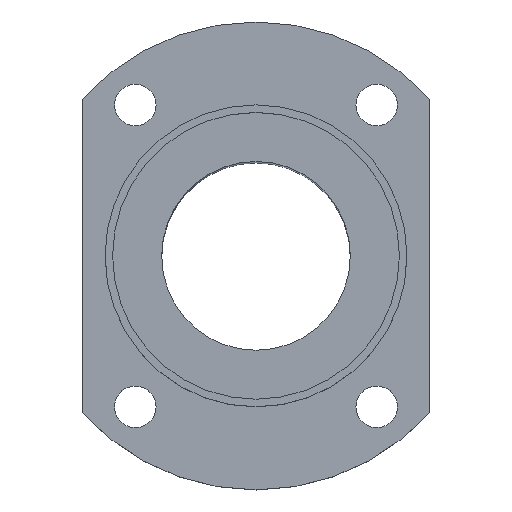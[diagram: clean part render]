
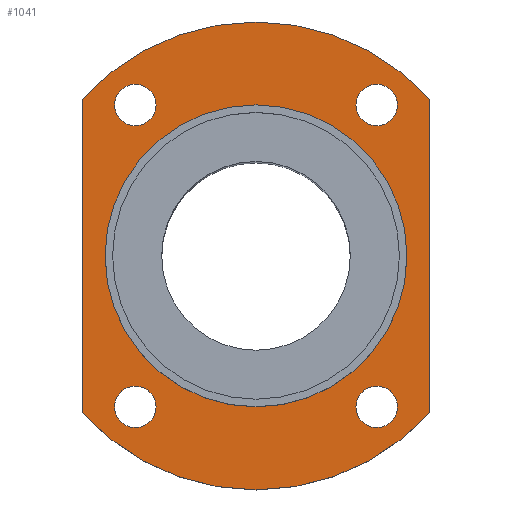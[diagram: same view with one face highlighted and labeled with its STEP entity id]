
A CAD part, top view. The second image highlights one B-rep face of the part: STEP entity #1041.
In plain terms, the highlighted planar face has unit normal (0, 0, 1).
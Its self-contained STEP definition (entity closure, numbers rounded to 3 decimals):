
#219=CARTESIAN_POINT('',(-20.0,0.,-8.));
#220=VERTEX_POINT('',#219);
#236=CARTESIAN_POINT('',(20.0,0.,-8.0));
#237=VERTEX_POINT('',#236);
#244=CARTESIAN_POINT('',(0.0,0.0,-8.));
#245=DIRECTION('',(0.0,0.0,1.0));
#246=DIRECTION('',(-1.0,0.0,0.0));
#247=AXIS2_PLACEMENT_3D('',#244,#245,#246);
#248=CIRCLE('',#247,20.0);
#249=EDGE_CURVE('',#237,#220,#248,.T.);
#259=CARTESIAN_POINT('',(-13.25,-20.,-8.));
#260=VERTEX_POINT('',#259);
#269=CARTESIAN_POINT('',(-18.75,-20.,-8.));
#270=VERTEX_POINT('',#269);
#271=CARTESIAN_POINT('',(-16.,-20.,-8.));
#272=DIRECTION('',(0.0,0.0,-1.0));
#273=DIRECTION('',(1.0,0.0,0.0));
#274=AXIS2_PLACEMENT_3D('',#271,#272,#273);
#275=CIRCLE('',#274,2.75);
#276=EDGE_CURVE('',#270,#260,#275,.T.);
#343=CARTESIAN_POINT('',(18.75,20.0,-8.));
#344=VERTEX_POINT('',#343);
#353=CARTESIAN_POINT('',(13.25,20.0,-8.));
#354=VERTEX_POINT('',#353);
#355=CARTESIAN_POINT('',(16.,20.0,-8.));
#356=DIRECTION('',(0.0,0.0,-1.0));
#357=DIRECTION('',(1.0,0.0,0.0));
#358=AXIS2_PLACEMENT_3D('',#355,#356,#357);
#359=CIRCLE('',#358,2.75);
#360=EDGE_CURVE('',#354,#344,#359,.T.);
#427=CARTESIAN_POINT('',(-13.25,20.,-8.));
#428=VERTEX_POINT('',#427);
#437=CARTESIAN_POINT('',(-18.75,20.,-8.));
#438=VERTEX_POINT('',#437);
#439=CARTESIAN_POINT('',(-16.,20.,-8.));
#440=DIRECTION('',(0.0,0.0,-1.0));
#441=DIRECTION('',(1.0,0.0,0.0));
#442=AXIS2_PLACEMENT_3D('',#439,#440,#441);
#443=CIRCLE('',#442,2.75);
#444=EDGE_CURVE('',#438,#428,#443,.T.);
#511=CARTESIAN_POINT('',(18.75,-20.,-8.));
#512=VERTEX_POINT('',#511);
#521=CARTESIAN_POINT('',(13.25,-20.,-8.));
#522=VERTEX_POINT('',#521);
#523=CARTESIAN_POINT('',(16.,-20.,-8.));
#524=DIRECTION('',(0.0,0.0,-1.0));
#525=DIRECTION('',(1.0,0.0,0.0));
#526=AXIS2_PLACEMENT_3D('',#523,#524,#525);
#527=CIRCLE('',#526,2.75);
#528=EDGE_CURVE('',#522,#512,#527,.T.);
#642=CARTESIAN_POINT('',(16.,-20.,-8.));
#643=DIRECTION('',(0.0,0.0,-1.0));
#644=DIRECTION('',(1.0,0.0,0.0));
#645=AXIS2_PLACEMENT_3D('',#642,#643,#644);
#646=CIRCLE('',#645,2.75);
#647=EDGE_CURVE('',#512,#522,#646,.T.);
#704=CARTESIAN_POINT('',(-16.,20.,-8.));
#705=DIRECTION('',(0.0,0.0,-1.0));
#706=DIRECTION('',(1.0,0.0,0.0));
#707=AXIS2_PLACEMENT_3D('',#704,#705,#706);
#708=CIRCLE('',#707,2.75);
#709=EDGE_CURVE('',#428,#438,#708,.T.);
#766=CARTESIAN_POINT('',(16.,20.0,-8.));
#767=DIRECTION('',(0.0,0.0,-1.0));
#768=DIRECTION('',(1.0,0.0,0.0));
#769=AXIS2_PLACEMENT_3D('',#766,#767,#768);
#770=CIRCLE('',#769,2.75);
#771=EDGE_CURVE('',#344,#354,#770,.T.);
#828=CARTESIAN_POINT('',(-16.,-20.,-8.));
#829=DIRECTION('',(0.0,0.0,-1.0));
#830=DIRECTION('',(1.0,0.0,0.0));
#831=AXIS2_PLACEMENT_3D('',#828,#829,#830);
#832=CIRCLE('',#831,2.75);
#833=EDGE_CURVE('',#260,#270,#832,.T.);
#854=CARTESIAN_POINT('',(23.,-20.785,-8.0));
#855=VERTEX_POINT('',#854);
#862=CARTESIAN_POINT('',(-23.,-20.785,-8.0));
#863=VERTEX_POINT('',#862);
#864=CARTESIAN_POINT('',(0.0,0.0,-8.0));
#865=DIRECTION('',(0.0,0.0,1.0));
#866=DIRECTION('',(-0.742,-0.67,0.0));
#867=AXIS2_PLACEMENT_3D('',#864,#865,#866);
#868=CIRCLE('',#867,31.0);
#869=EDGE_CURVE('',#863,#855,#868,.T.);
#893=CARTESIAN_POINT('',(23.,20.785,-8.0));
#894=VERTEX_POINT('',#893);
#901=CARTESIAN_POINT('',(23.,-20.785,-8.0));
#902=DIRECTION('',(0.0,1.0,0.0));
#903=VECTOR('',#902,41.569);
#904=LINE('',#901,#903);
#905=EDGE_CURVE('',#855,#894,#904,.T.);
#925=CARTESIAN_POINT('',(-23.,20.785,-8.0));
#926=VERTEX_POINT('',#925);
#933=CARTESIAN_POINT('',(0.0,0.0,-8.0));
#934=DIRECTION('',(0.0,0.0,1.0));
#935=DIRECTION('',(0.742,0.67,0.0));
#936=AXIS2_PLACEMENT_3D('',#933,#934,#935);
#937=CIRCLE('',#936,31.0);
#938=EDGE_CURVE('',#894,#926,#937,.T.);
#956=CARTESIAN_POINT('',(-23.,20.785,-8.0));
#957=DIRECTION('',(0.0,-1.0,0.0));
#958=VECTOR('',#957,41.569);
#959=LINE('',#956,#958);
#960=EDGE_CURVE('',#926,#863,#959,.T.);
#1004=CARTESIAN_POINT('',(0.,0.0,-8.));
#1005=DIRECTION('',(0.0,0.0,1.0));
#1006=DIRECTION('',(1.0,0.0,0.0));
#1007=AXIS2_PLACEMENT_3D('',#1004,#1005,#1006);
#1008=PLANE('',#1007);
#1009=ORIENTED_EDGE('',*,*,#960,.T.);
#1010=ORIENTED_EDGE('',*,*,#869,.T.);
#1011=ORIENTED_EDGE('',*,*,#905,.T.);
#1012=ORIENTED_EDGE('',*,*,#938,.T.);
#1013=EDGE_LOOP('',(#1009,#1010,#1011,#1012));
#1014=FACE_OUTER_BOUND('',#1013,.T.);
#1015=ORIENTED_EDGE('',*,*,#528,.T.);
#1016=ORIENTED_EDGE('',*,*,#647,.T.);
#1017=EDGE_LOOP('',(#1015,#1016));
#1018=FACE_BOUND('',#1017,.T.);
#1019=ORIENTED_EDGE('',*,*,#444,.T.);
#1020=ORIENTED_EDGE('',*,*,#709,.T.);
#1021=EDGE_LOOP('',(#1019,#1020));
#1022=FACE_BOUND('',#1021,.T.);
#1023=ORIENTED_EDGE('',*,*,#360,.T.);
#1024=ORIENTED_EDGE('',*,*,#771,.T.);
#1025=EDGE_LOOP('',(#1023,#1024));
#1026=FACE_BOUND('',#1025,.T.);
#1027=ORIENTED_EDGE('',*,*,#276,.T.);
#1028=ORIENTED_EDGE('',*,*,#833,.T.);
#1029=EDGE_LOOP('',(#1027,#1028));
#1030=FACE_BOUND('',#1029,.T.);
#1031=ORIENTED_EDGE('',*,*,#249,.F.);
#1032=CARTESIAN_POINT('',(0.0,0.0,-8.));
#1033=DIRECTION('',(0.0,0.0,1.0));
#1034=DIRECTION('',(-1.0,0.0,0.0));
#1035=AXIS2_PLACEMENT_3D('',#1032,#1033,#1034);
#1036=CIRCLE('',#1035,20.0);
#1037=EDGE_CURVE('',#220,#237,#1036,.T.);
#1038=ORIENTED_EDGE('',*,*,#1037,.F.);
#1039=EDGE_LOOP('',(#1031,#1038));
#1040=FACE_BOUND('',#1039,.T.);
#1041=ADVANCED_FACE('',(#1014,#1018,#1022,#1026,#1030,#1040),#1008,.T.);
